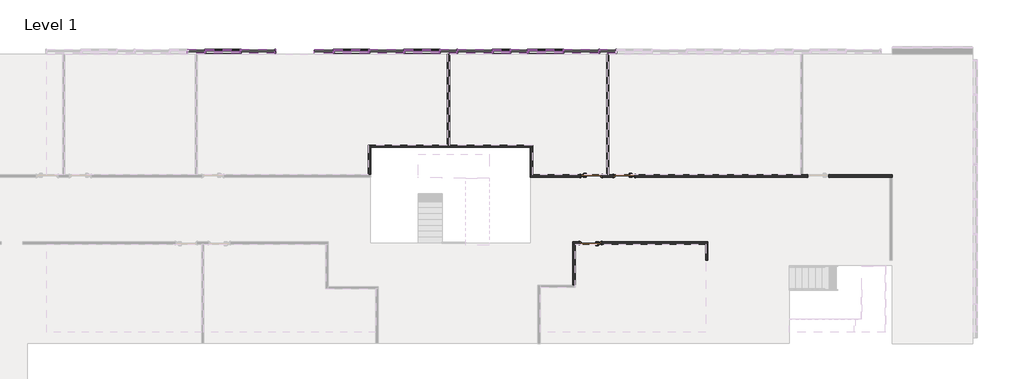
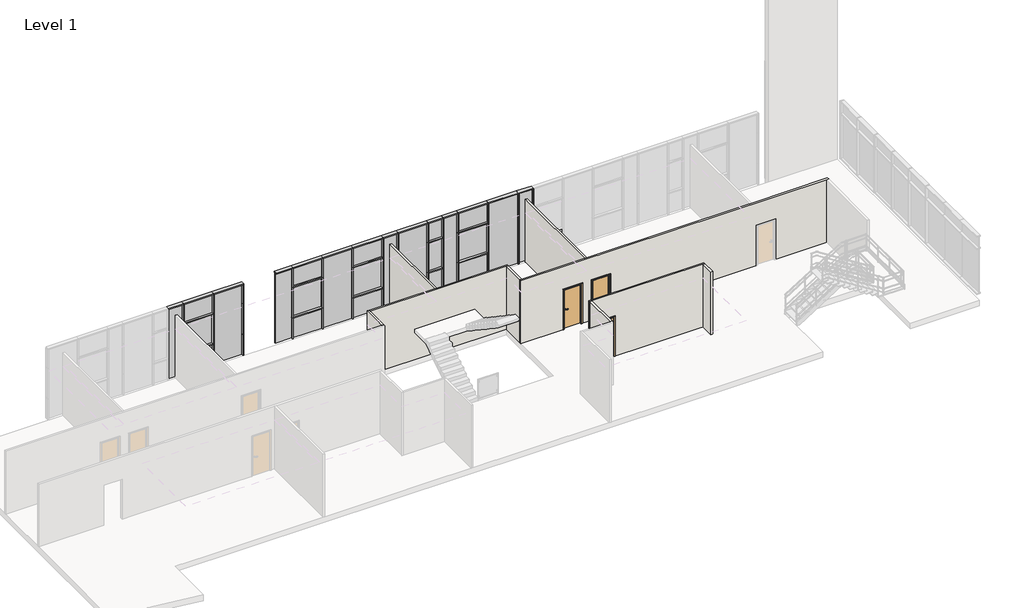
# One storey, part 5 of 10: 66 members, 25 plates, 9 walls, 3 doors.
"""IFC4 building model written with IfcOpenShell, lengths in millimetres."""

from ifc_helpers import new_model, si_unit, frame, origin, place, context, project, spatial, polyline, outline, extrude, faceted_brep, transform, mapped, element, save
from components import doors_intsgl_1_910x2110mm_004a08d5, doors_intsgl_1_910x2110mm_ba118736, rectangular_mullion_50x180mm_27940352, rectangular_mullion_50x180mm_f781141c, rectangular_mullion_50x180mm_fd91253e, rectangular_mullion_50x180mm_cfc9efda, rectangular_mullion_50x180mm_c30fec06, rectangular_mullion_50x180mm_55b63a96, rectangular_mullion_50x180mm_95299f7d, rectangular_mullion_50x180mm_7153291d, rectangular_mullion_50x180mm_44ee472d, rectangular_mullion_50x180mm_f19e9633, rectangular_mullion_50x180mm_b6846536, system_panel_black_panel_9c91f909, system_panel_black_panel_9e4711d2, system_panel_black_panel_f1dc39a6, system_panel_dark_grey_panel_d75652f0, system_panel_dark_grey_panel_1d6e0621, system_panel_dark_grey_panel_c47644bc, system_panel_glazed_dd63f223, system_panel_glazed_4915e1a0, system_panel_white_panel_6a64f577, system_panel_white_panel_a9ca731a, system_panel_white_panel_6c6c8c82, system_panel_white_panel_ff540c20

model = new_model("IFC4")

# Units and contexts
model_context = context("Model", 3, world=origin())
ifc_project = project(units=[si_unit("LENGTHUNIT", "METRE", prefix="MILLI")], contexts=[model_context])

# Site, building, storey
site = spatial("IfcSite", under=ifc_project)
building = spatial("IfcBuilding", under=site)
storey = spatial("IfcBuildingStorey", under=building, Name="Level 1", Elevation=3750.0)

# Doors
placement = place(None, origin())
doors_intsgl_1_910x2110mm_shape = doors_intsgl_1_910x2110mm_004a08d5(model_context)
element("IfcDoor", 1, ObjectType="Doors_IntSgl_1 : 910x2110mm", at=placement, inside=storey, context=model_context, shape_type="MappedRepresentation", body=[
    mapped(doors_intsgl_1_910x2110mm_shape, transform((26878.2942367, 3837.3025486, 3750.0), x_axis=(1.0, 0.0, 0.0), y_axis=(0.0, 1.0, 0.0), z_axis=(0.0, 0.0, 1.0))),
])
element("IfcDoor", 2, ObjectType="Doors_IntSgl_1 : 910x2110mm", at=placement, inside=storey, context=model_context, shape_type="MappedRepresentation", body=[
    mapped(doors_intsgl_1_910x2110mm_shape, transform((26848.2942367, 987.4946591, 3750.0), x_axis=(-1.0, 0.0, 0.0), y_axis=(0.0, -1.0, 0.0), z_axis=(0.0, 0.0, 1.0))),
])
doors_intsgl_1_910x2110mm_2_shape = doors_intsgl_1_910x2110mm_ba118736(model_context)
element("IfcDoor", 3, ObjectType="Doors_IntSgl_1 : 910x2110mm", at=placement, inside=storey, context=model_context, shape_type="MappedRepresentation", body=[
    mapped(doors_intsgl_1_910x2110mm_2_shape, transform((28283.2942367, 3837.3025486, 3750.0), x_axis=(-1.0, 0.0, 0.0), y_axis=(0.0, -1.0, 0.0), z_axis=(0.0, 0.0, 1.0))),
])

# Members
rectangular_mullion_50x180mm_shape = rectangular_mullion_50x180mm_27940352(model_context)
element("IfcMember", 4, ObjectType="Rectangular Mullion : 50x180mm", at=placement, inside=storey, context=model_context, shape_type="MappedRepresentation", body=[
    mapped(rectangular_mullion_50x180mm_shape, transform((27943.2942367, 9132.4946591, 3750.0), x_axis=(1.0, 0.0, 0.0), y_axis=(0.0, -1.0, 0.0), z_axis=(0.0, 0.0, -1.0))),
])
element("IfcMember", 5, ObjectType="Rectangular Mullion : 50x180mm", at=placement, inside=storey, context=model_context, shape_type="MappedRepresentation", body=[
    mapped(rectangular_mullion_50x180mm_shape, transform((25693.2942367, 9132.4946591, 3750.0), x_axis=(1.0, 0.0, 0.0), y_axis=(0.0, -1.0, 0.0), z_axis=(0.0, 0.0, -1.0))),
])
element("IfcMember", 6, ObjectType="Rectangular Mullion : 50x180mm", at=placement, inside=storey, context=model_context, shape_type="MappedRepresentation", body=[
    mapped(rectangular_mullion_50x180mm_shape, transform((24193.2942367, 9132.4946591, 3750.0), x_axis=(1.0, 0.0, 0.0), y_axis=(0.0, -1.0, 0.0), z_axis=(0.0, 0.0, -1.0))),
])
element("IfcMember", 7, ObjectType="Rectangular Mullion : 50x180mm", at=placement, inside=storey, context=model_context, shape_type="MappedRepresentation", body=[
    mapped(rectangular_mullion_50x180mm_shape, transform((23443.2942367, 9132.4946591, 3750.0), x_axis=(1.0, 0.0, 0.0), y_axis=(0.0, -1.0, 0.0), z_axis=(0.0, 0.0, -1.0))),
])
element("IfcMember", 8, ObjectType="Rectangular Mullion : 50x180mm", at=placement, inside=storey, context=model_context, shape_type="MappedRepresentation", body=[
    mapped(rectangular_mullion_50x180mm_shape, transform((22693.2942367, 9132.4946591, 3750.0), x_axis=(1.0, 0.0, 0.0), y_axis=(0.0, -1.0, 0.0), z_axis=(0.0, 0.0, -1.0))),
])
element("IfcMember", 9, ObjectType="Rectangular Mullion : 50x180mm", at=placement, inside=storey, context=model_context, shape_type="MappedRepresentation", body=[
    mapped(rectangular_mullion_50x180mm_shape, transform((20443.2942367, 9132.4946591, 3750.0), x_axis=(1.0, 0.0, 0.0), y_axis=(0.0, -1.0, 0.0), z_axis=(0.0, 0.0, -1.0))),
])
element("IfcMember", 10, ObjectType="Rectangular Mullion : 50x180mm", at=placement, inside=storey, context=model_context, shape_type="MappedRepresentation", body=[
    mapped(rectangular_mullion_50x180mm_shape, transform((18943.2942367, 9132.4946591, 3750.0), x_axis=(1.0, 0.0, 0.0), y_axis=(0.0, -1.0, 0.0), z_axis=(0.0, 0.0, -1.0))),
])
element("IfcMember", 11, ObjectType="Rectangular Mullion : 50x180mm", at=placement, inside=storey, context=model_context, shape_type="MappedRepresentation", body=[
    mapped(rectangular_mullion_50x180mm_shape, transform((15943.2942367, 9132.4946591, 3750.0), x_axis=(1.0, 0.0, 0.0), y_axis=(0.0, -1.0, 0.0), z_axis=(0.0, 0.0, -1.0))),
])
element("IfcMember", 12, ObjectType="Rectangular Mullion : 50x180mm", at=placement, inside=storey, context=model_context, shape_type="MappedRepresentation", body=[
    mapped(rectangular_mullion_50x180mm_shape, transform((17443.2942367, 9132.4946591, 3750.0), x_axis=(1.0, 0.0, 0.0), y_axis=(0.0, -1.0, 0.0), z_axis=(0.0, 0.0, -1.0))),
])
element("IfcMember", 13, ObjectType="Rectangular Mullion : 50x180mm", at=placement, inside=storey, context=model_context, shape_type="MappedRepresentation", body=[
    mapped(rectangular_mullion_50x180mm_shape, transform((11980.7942367, 9132.4946591, 3750.0), x_axis=(1.0, 0.0, 0.0), y_axis=(0.0, -1.0, 0.0), z_axis=(0.0, 0.0, -1.0))),
])
element("IfcMember", 14, ObjectType="Rectangular Mullion : 50x180mm", at=placement, inside=storey, context=model_context, shape_type="MappedRepresentation", body=[
    mapped(rectangular_mullion_50x180mm_shape, transform((10480.7942367, 9132.4946591, 3750.0), x_axis=(1.0, 0.0, 0.0), y_axis=(0.0, -1.0, 0.0), z_axis=(0.0, 0.0, -1.0))),
])
element("IfcMember", 15, ObjectType="Rectangular Mullion : 50x180mm", at=placement, inside=storey, context=model_context, shape_type="MappedRepresentation", body=[
    mapped(rectangular_mullion_50x180mm_shape, transform((21193.2942367, 9132.4946591, 3750.0), x_axis=(1.0, 0.0, 0.0), y_axis=(0.0, -1.0, 0.0), z_axis=(0.0, 0.0, -1.0))),
])
rectangular_mullion_50x180mm_2_shape = rectangular_mullion_50x180mm_f781141c(model_context)
element("IfcMember", 16, ObjectType="Rectangular Mullion : 50x180mm", at=placement, inside=storey, context=model_context, shape_type="MappedRepresentation", body=[
    mapped(rectangular_mullion_50x180mm_2_shape, transform((27943.2942367, 9132.4946591, 4850.0), x_axis=(1.0, 0.0, 0.0), y_axis=(0.0, -1.0, 0.0), z_axis=(0.0, 0.0, -1.0))),
])
element("IfcMember", 17, ObjectType="Rectangular Mullion : 50x180mm", at=placement, inside=storey, context=model_context, shape_type="MappedRepresentation", body=[
    mapped(rectangular_mullion_50x180mm_2_shape, transform((15943.2942367, 9132.4946591, 4850.0), x_axis=(1.0, 0.0, 0.0), y_axis=(0.0, -1.0, 0.0), z_axis=(0.0, 0.0, -1.0))),
])
element("IfcMember", 18, ObjectType="Rectangular Mullion : 50x180mm", at=placement, inside=storey, context=model_context, shape_type="MappedRepresentation", body=[
    mapped(rectangular_mullion_50x180mm_2_shape, transform((17443.2942367, 9132.4946591, 4850.0), x_axis=(1.0, 0.0, 0.0), y_axis=(0.0, -1.0, 0.0), z_axis=(0.0, 0.0, -1.0))),
])
element("IfcMember", 19, ObjectType="Rectangular Mullion : 50x180mm", at=placement, inside=storey, context=model_context, shape_type="MappedRepresentation", body=[
    mapped(rectangular_mullion_50x180mm_2_shape, transform((18943.2942367, 9132.4946591, 4850.0), x_axis=(1.0, 0.0, 0.0), y_axis=(0.0, -1.0, 0.0), z_axis=(0.0, 0.0, -1.0))),
])
element("IfcMember", 20, ObjectType="Rectangular Mullion : 50x180mm", at=placement, inside=storey, context=model_context, shape_type="MappedRepresentation", body=[
    mapped(rectangular_mullion_50x180mm_2_shape, transform((20443.2942367, 9132.4946591, 4850.0), x_axis=(1.0, 0.0, 0.0), y_axis=(0.0, -1.0, 0.0), z_axis=(0.0, 0.0, -1.0))),
])
element("IfcMember", 21, ObjectType="Rectangular Mullion : 50x180mm", at=placement, inside=storey, context=model_context, shape_type="MappedRepresentation", body=[
    mapped(rectangular_mullion_50x180mm_2_shape, transform((22693.2942367, 9132.4946591, 4850.0), x_axis=(1.0, 0.0, 0.0), y_axis=(0.0, -1.0, 0.0), z_axis=(0.0, 0.0, -1.0))),
])
element("IfcMember", 22, ObjectType="Rectangular Mullion : 50x180mm", at=placement, inside=storey, context=model_context, shape_type="MappedRepresentation", body=[
    mapped(rectangular_mullion_50x180mm_2_shape, transform((23443.2942367, 9132.4946591, 4850.0), x_axis=(1.0, 0.0, 0.0), y_axis=(0.0, -1.0, 0.0), z_axis=(0.0, 0.0, -1.0))),
])
element("IfcMember", 23, ObjectType="Rectangular Mullion : 50x180mm", at=placement, inside=storey, context=model_context, shape_type="MappedRepresentation", body=[
    mapped(rectangular_mullion_50x180mm_2_shape, transform((24193.2942367, 9132.4946591, 4850.0), x_axis=(1.0, 0.0, 0.0), y_axis=(0.0, -1.0, 0.0), z_axis=(0.0, 0.0, -1.0))),
])
element("IfcMember", 24, ObjectType="Rectangular Mullion : 50x180mm", at=placement, inside=storey, context=model_context, shape_type="MappedRepresentation", body=[
    mapped(rectangular_mullion_50x180mm_2_shape, transform((25693.2942367, 9132.4946591, 4850.0), x_axis=(1.0, 0.0, 0.0), y_axis=(0.0, -1.0, 0.0), z_axis=(0.0, 0.0, -1.0))),
])
element("IfcMember", 25, ObjectType="Rectangular Mullion : 50x180mm", at=placement, inside=storey, context=model_context, shape_type="MappedRepresentation", body=[
    mapped(rectangular_mullion_50x180mm_2_shape, transform((10480.7942367, 9132.4946591, 4850.0), x_axis=(1.0, 0.0, 0.0), y_axis=(0.0, -1.0, 0.0), z_axis=(0.0, 0.0, -1.0))),
])
element("IfcMember", 26, ObjectType="Rectangular Mullion : 50x180mm", at=placement, inside=storey, context=model_context, shape_type="MappedRepresentation", body=[
    mapped(rectangular_mullion_50x180mm_2_shape, transform((11980.7942367, 9132.4946591, 4850.0), x_axis=(1.0, 0.0, 0.0), y_axis=(0.0, -1.0, 0.0), z_axis=(0.0, 0.0, -1.0))),
])
element("IfcMember", 27, ObjectType="Rectangular Mullion : 50x180mm", at=placement, inside=storey, context=model_context, shape_type="MappedRepresentation", body=[
    mapped(rectangular_mullion_50x180mm_2_shape, transform((21193.2942367, 9132.4946591, 4850.0), x_axis=(1.0, 0.0, 0.0), y_axis=(0.0, -1.0, 0.0), z_axis=(0.0, 0.0, -1.0))),
])
rectangular_mullion_50x180mm_3_shape = rectangular_mullion_50x180mm_fd91253e(model_context)
element("IfcMember", 28, ObjectType="Rectangular Mullion : 50x180mm", at=placement, inside=storey, context=model_context, shape_type="MappedRepresentation", body=[
    mapped(rectangular_mullion_50x180mm_3_shape, transform((25668.2942367, 9132.4946591, 4850.0), x_axis=(0.0, 0.0, 1.0), y_axis=(0.0, -1.0, 0.0), z_axis=(1.0, 0.0, 0.0))),
])
element("IfcMember", 29, ObjectType="Rectangular Mullion : 50x180mm", at=placement, inside=storey, context=model_context, shape_type="MappedRepresentation", body=[
    mapped(rectangular_mullion_50x180mm_3_shape, transform((25668.2942367, 9132.4946591, 6450.0), x_axis=(0.0, 0.0, 1.0), y_axis=(0.0, -1.0, 0.0), z_axis=(1.0, 0.0, 0.0))),
])
element("IfcMember", 30, ObjectType="Rectangular Mullion : 50x180mm", at=placement, inside=storey, context=model_context, shape_type="MappedRepresentation", body=[
    mapped(rectangular_mullion_50x180mm_3_shape, transform((17418.2942367, 9132.4946591, 4850.0), x_axis=(0.0, 0.0, 1.0), y_axis=(0.0, -1.0, 0.0), z_axis=(1.0, 0.0, 0.0))),
])
element("IfcMember", 31, ObjectType="Rectangular Mullion : 50x180mm", at=placement, inside=storey, context=model_context, shape_type="MappedRepresentation", body=[
    mapped(rectangular_mullion_50x180mm_3_shape, transform((20418.2942367, 9132.4946591, 4850.0), x_axis=(0.0, 0.0, 1.0), y_axis=(0.0, -1.0, 0.0), z_axis=(1.0, 0.0, 0.0))),
])
element("IfcMember", 32, ObjectType="Rectangular Mullion : 50x180mm", at=placement, inside=storey, context=model_context, shape_type="MappedRepresentation", body=[
    mapped(rectangular_mullion_50x180mm_3_shape, transform((17418.2942367, 9132.4946591, 6450.0), x_axis=(0.0, 0.0, 1.0), y_axis=(0.0, -1.0, 0.0), z_axis=(1.0, 0.0, 0.0))),
])
element("IfcMember", 33, ObjectType="Rectangular Mullion : 50x180mm", at=placement, inside=storey, context=model_context, shape_type="MappedRepresentation", body=[
    mapped(rectangular_mullion_50x180mm_3_shape, transform((20418.2942367, 9132.4946591, 6450.0), x_axis=(0.0, 0.0, 1.0), y_axis=(0.0, -1.0, 0.0), z_axis=(1.0, 0.0, 0.0))),
])
element("IfcMember", 34, ObjectType="Rectangular Mullion : 50x180mm", at=placement, inside=storey, context=model_context, shape_type="MappedRepresentation", body=[
    mapped(rectangular_mullion_50x180mm_3_shape, transform((11955.7942367, 9132.4946591, 4850.0), x_axis=(0.0, 0.0, 1.0), y_axis=(0.0, -1.0, 0.0), z_axis=(1.0, 0.0, 0.0))),
])
element("IfcMember", 35, ObjectType="Rectangular Mullion : 50x180mm", at=placement, inside=storey, context=model_context, shape_type="MappedRepresentation", body=[
    mapped(rectangular_mullion_50x180mm_3_shape, transform((11955.7942367, 9132.4946591, 6450.0), x_axis=(0.0, 0.0, 1.0), y_axis=(0.0, -1.0, 0.0), z_axis=(1.0, 0.0, 0.0))),
])
rectangular_mullion_50x180mm_4_shape = rectangular_mullion_50x180mm_cfc9efda(model_context)
element("IfcMember", 36, ObjectType="Rectangular Mullion : 50x180mm", at=placement, inside=storey, context=model_context, shape_type="MappedRepresentation", body=[
    mapped(rectangular_mullion_50x180mm_4_shape, transform((23418.2942367, 9132.4946591, 6450.0), x_axis=(0.0, 0.0, 1.0), y_axis=(0.0, -1.0, 0.0), z_axis=(1.0, 0.0, 0.0))),
])
element("IfcMember", 37, ObjectType="Rectangular Mullion : 50x180mm", at=placement, inside=storey, context=model_context, shape_type="MappedRepresentation", body=[
    mapped(rectangular_mullion_50x180mm_4_shape, transform((23418.2942367, 9132.4946591, 4850.0), x_axis=(0.0, 0.0, 1.0), y_axis=(0.0, -1.0, 0.0), z_axis=(1.0, 0.0, 0.0))),
])
rectangular_mullion_50x180mm_5_shape = rectangular_mullion_50x180mm_c30fec06(model_context)
element("IfcMember", 38, ObjectType="Rectangular Mullion : 50x180mm", at=placement, inside=storey, context=model_context, shape_type="MappedRepresentation", body=[
    mapped(rectangular_mullion_50x180mm_5_shape, transform((17443.2942367, 9132.4946591, 7500.0), x_axis=(0.0, 0.0, 1.0), y_axis=(0.0, -1.0, 0.0), z_axis=(1.0, 0.0, 0.0))),
])
element("IfcMember", 39, ObjectType="Rectangular Mullion : 50x180mm", at=placement, inside=storey, context=model_context, shape_type="MappedRepresentation", body=[
    mapped(rectangular_mullion_50x180mm_5_shape, transform((18943.2942367, 9132.4946591, 7500.0), x_axis=(0.0, 0.0, 1.0), y_axis=(0.0, -1.0, 0.0), z_axis=(1.0, 0.0, 0.0))),
])
element("IfcMember", 40, ObjectType="Rectangular Mullion : 50x180mm", at=placement, inside=storey, context=model_context, shape_type="MappedRepresentation", body=[
    mapped(rectangular_mullion_50x180mm_5_shape, transform((20443.2942367, 9132.4946591, 7500.0), x_axis=(0.0, 0.0, 1.0), y_axis=(0.0, -1.0, 0.0), z_axis=(1.0, 0.0, 0.0))),
])
element("IfcMember", 41, ObjectType="Rectangular Mullion : 50x180mm", at=placement, inside=storey, context=model_context, shape_type="MappedRepresentation", body=[
    mapped(rectangular_mullion_50x180mm_5_shape, transform((22693.2942367, 9132.4946591, 7500.0), x_axis=(0.0, 0.0, 1.0), y_axis=(0.0, -1.0, 0.0), z_axis=(1.0, 0.0, 0.0))),
])
element("IfcMember", 42, ObjectType="Rectangular Mullion : 50x180mm", at=placement, inside=storey, context=model_context, shape_type="MappedRepresentation", body=[
    mapped(rectangular_mullion_50x180mm_5_shape, transform((25693.2942367, 9132.4946591, 7500.0), x_axis=(0.0, 0.0, 1.0), y_axis=(0.0, -1.0, 0.0), z_axis=(1.0, 0.0, 0.0))),
])
element("IfcMember", 43, ObjectType="Rectangular Mullion : 50x180mm", at=placement, inside=storey, context=model_context, shape_type="MappedRepresentation", body=[
    mapped(rectangular_mullion_50x180mm_5_shape, transform((11980.7942367, 9132.4946591, 7500.0), x_axis=(0.0, 0.0, 1.0), y_axis=(0.0, -1.0, 0.0), z_axis=(1.0, 0.0, 0.0))),
])
rectangular_mullion_50x180mm_6_shape = rectangular_mullion_50x180mm_55b63a96(model_context)
element("IfcMember", 44, ObjectType="Rectangular Mullion : 50x180mm", at=placement, inside=storey, context=model_context, shape_type="MappedRepresentation", body=[
    mapped(rectangular_mullion_50x180mm_6_shape, transform((27943.2942367, 9132.4946591, 7500.0), x_axis=(0.0, 0.0, 1.0), y_axis=(0.0, -1.0, 0.0), z_axis=(1.0, 0.0, 0.0))),
])
element("IfcMember", 45, ObjectType="Rectangular Mullion : 50x180mm", at=placement, inside=storey, context=model_context, shape_type="MappedRepresentation", body=[
    mapped(rectangular_mullion_50x180mm_5_shape, transform((27193.2942367, 9132.4946591, 7500.0), x_axis=(0.0, 0.0, 1.0), y_axis=(0.0, -1.0, 0.0), z_axis=(1.0, 0.0, 0.0))),
])
element("IfcMember", 46, ObjectType="Rectangular Mullion : 50x180mm", at=placement, inside=storey, context=model_context, shape_type="MappedRepresentation", body=[
    mapped(rectangular_mullion_50x180mm_6_shape, transform((21193.2942367, 9132.4946591, 7500.0), x_axis=(0.0, 0.0, 1.0), y_axis=(0.0, -1.0, 0.0), z_axis=(1.0, 0.0, 0.0))),
])
element("IfcMember", 47, ObjectType="Rectangular Mullion : 50x180mm", at=placement, inside=storey, context=model_context, shape_type="MappedRepresentation", body=[
    mapped(rectangular_mullion_50x180mm_6_shape, transform((23443.2942367, 9132.4946591, 7500.0), x_axis=(0.0, 0.0, 1.0), y_axis=(0.0, -1.0, 0.0), z_axis=(1.0, 0.0, 0.0))),
])
element("IfcMember", 48, ObjectType="Rectangular Mullion : 50x180mm", at=placement, inside=storey, context=model_context, shape_type="MappedRepresentation", body=[
    mapped(rectangular_mullion_50x180mm_6_shape, transform((24193.2942367, 9132.4946591, 7500.0), x_axis=(0.0, 0.0, 1.0), y_axis=(0.0, -1.0, 0.0), z_axis=(1.0, 0.0, 0.0))),
])
element("IfcMember", 49, ObjectType="Rectangular Mullion : 50x180mm", at=placement, inside=storey, context=model_context, shape_type="MappedRepresentation", body=[
    mapped(rectangular_mullion_50x180mm_6_shape, transform((10480.7942367, 9132.4946591, 7500.0), x_axis=(0.0, 0.0, 1.0), y_axis=(0.0, -1.0, 0.0), z_axis=(1.0, 0.0, 0.0))),
])
element("IfcMember", 50, ObjectType="Rectangular Mullion : 50x180mm", at=placement, inside=storey, context=model_context, shape_type="MappedRepresentation", body=[
    mapped(rectangular_mullion_50x180mm_5_shape, transform((13480.7942367, 9132.4946591, 7500.0), x_axis=(0.0, 0.0, 1.0), y_axis=(0.0, -1.0, 0.0), z_axis=(1.0, 0.0, 0.0))),
])
rectangular_mullion_50x180mm_7_shape = rectangular_mullion_50x180mm_95299f7d(model_context)
element("IfcMember", 51, ObjectType="Rectangular Mullion : 50x180mm", at=placement, inside=storey, context=model_context, shape_type="MappedRepresentation", body=[
    mapped(rectangular_mullion_50x180mm_7_shape, transform((13480.7942367, 9132.4946591, 4850.0), x_axis=(1.0, 0.0, 0.0), y_axis=(0.0, -1.0, 0.0), z_axis=(0.0, 0.0, -1.0))),
])
rectangular_mullion_50x180mm_8_shape = rectangular_mullion_50x180mm_7153291d(model_context)
element("IfcMember", 52, ObjectType="Rectangular Mullion : 50x180mm", at=placement, inside=storey, context=model_context, shape_type="MappedRepresentation", body=[
    mapped(rectangular_mullion_50x180mm_8_shape, transform((13480.7942367, 9132.4946591, 3750.0), x_axis=(1.0, 0.0, 0.0), y_axis=(0.0, -1.0, 0.0), z_axis=(0.0, 0.0, -1.0))),
])
element("IfcMember", 53, ObjectType="Rectangular Mullion : 50x180mm", at=placement, inside=storey, context=model_context, shape_type="MappedRepresentation", body=[
    mapped(rectangular_mullion_50x180mm_8_shape, transform((27193.2942367, 9132.4946591, 4850.0), x_axis=(-1.0, 0.0, 0.0), y_axis=(0.0, -1.0, 0.0), z_axis=(0.0, 0.0, 1.0))),
])
element("IfcMember", 54, ObjectType="Rectangular Mullion : 50x180mm", at=placement, inside=storey, context=model_context, shape_type="MappedRepresentation", body=[
    mapped(rectangular_mullion_50x180mm_7_shape, transform((27193.2942367, 9132.4946591, 6450.0), x_axis=(-1.0, 0.0, 0.0), y_axis=(0.0, -1.0, 0.0), z_axis=(0.0, 0.0, 1.0))),
])
rectangular_mullion_50x180mm_9_shape = rectangular_mullion_50x180mm_44ee472d(model_context)
element("IfcMember", 55, ObjectType="Rectangular Mullion : 50x180mm", at=placement, inside=storey, context=model_context, shape_type="MappedRepresentation", body=[
    mapped(rectangular_mullion_50x180mm_9_shape, transform((15943.2942367, 9132.4946591, 7500.0), x_axis=(0.0, 0.0, 1.0), y_axis=(0.0, -1.0, 0.0), z_axis=(1.0, 0.0, 0.0))),
])
rectangular_mullion_50x180mm_10_shape = rectangular_mullion_50x180mm_f19e9633(model_context)
element("IfcMember", 56, ObjectType="Rectangular Mullion : 50x180mm", at=placement, inside=storey, context=model_context, shape_type="MappedRepresentation", body=[
    mapped(rectangular_mullion_50x180mm_10_shape, transform((27943.2942367, 9132.4946591, 6450.0), x_axis=(1.0, 0.0, 0.0), y_axis=(0.0, -1.0, 0.0), z_axis=(0.0, 0.0, -1.0))),
])
element("IfcMember", 57, ObjectType="Rectangular Mullion : 50x180mm", at=placement, inside=storey, context=model_context, shape_type="MappedRepresentation", body=[
    mapped(rectangular_mullion_50x180mm_10_shape, transform((22693.2942367, 9132.4946591, 6450.0), x_axis=(1.0, 0.0, 0.0), y_axis=(0.0, -1.0, 0.0), z_axis=(0.0, 0.0, -1.0))),
])
element("IfcMember", 58, ObjectType="Rectangular Mullion : 50x180mm", at=placement, inside=storey, context=model_context, shape_type="MappedRepresentation", body=[
    mapped(rectangular_mullion_50x180mm_10_shape, transform((23443.2942367, 9132.4946591, 6450.0), x_axis=(1.0, 0.0, 0.0), y_axis=(0.0, -1.0, 0.0), z_axis=(0.0, 0.0, -1.0))),
])
element("IfcMember", 59, ObjectType="Rectangular Mullion : 50x180mm", at=placement, inside=storey, context=model_context, shape_type="MappedRepresentation", body=[
    mapped(rectangular_mullion_50x180mm_10_shape, transform((24193.2942367, 9132.4946591, 6450.0), x_axis=(1.0, 0.0, 0.0), y_axis=(0.0, -1.0, 0.0), z_axis=(0.0, 0.0, -1.0))),
])
element("IfcMember", 60, ObjectType="Rectangular Mullion : 50x180mm", at=placement, inside=storey, context=model_context, shape_type="MappedRepresentation", body=[
    mapped(rectangular_mullion_50x180mm_10_shape, transform((25693.2942367, 9132.4946591, 6450.0), x_axis=(1.0, 0.0, 0.0), y_axis=(0.0, -1.0, 0.0), z_axis=(0.0, 0.0, -1.0))),
])
element("IfcMember", 61, ObjectType="Rectangular Mullion : 50x180mm", at=placement, inside=storey, context=model_context, shape_type="MappedRepresentation", body=[
    mapped(rectangular_mullion_50x180mm_10_shape, transform((20443.2942367, 9132.4946591, 6450.0), x_axis=(1.0, 0.0, 0.0), y_axis=(0.0, -1.0, 0.0), z_axis=(0.0, 0.0, -1.0))),
])
element("IfcMember", 62, ObjectType="Rectangular Mullion : 50x180mm", at=placement, inside=storey, context=model_context, shape_type="MappedRepresentation", body=[
    mapped(rectangular_mullion_50x180mm_10_shape, transform((18943.2942367, 9132.4946591, 6450.0), x_axis=(1.0, 0.0, 0.0), y_axis=(0.0, -1.0, 0.0), z_axis=(0.0, 0.0, -1.0))),
])
element("IfcMember", 63, ObjectType="Rectangular Mullion : 50x180mm", at=placement, inside=storey, context=model_context, shape_type="MappedRepresentation", body=[
    mapped(rectangular_mullion_50x180mm_10_shape, transform((15943.2942367, 9132.4946591, 6450.0), x_axis=(1.0, 0.0, 0.0), y_axis=(0.0, -1.0, 0.0), z_axis=(0.0, 0.0, -1.0))),
])
element("IfcMember", 64, ObjectType="Rectangular Mullion : 50x180mm", at=placement, inside=storey, context=model_context, shape_type="MappedRepresentation", body=[
    mapped(rectangular_mullion_50x180mm_10_shape, transform((17443.2942367, 9132.4946591, 6450.0), x_axis=(1.0, 0.0, 0.0), y_axis=(0.0, -1.0, 0.0), z_axis=(0.0, 0.0, -1.0))),
])
element("IfcMember", 65, ObjectType="Rectangular Mullion : 50x180mm", at=placement, inside=storey, context=model_context, shape_type="MappedRepresentation", body=[
    mapped(rectangular_mullion_50x180mm_10_shape, transform((10480.7942367, 9132.4946591, 6450.0), x_axis=(1.0, 0.0, 0.0), y_axis=(0.0, -1.0, 0.0), z_axis=(0.0, 0.0, -1.0))),
])
element("IfcMember", 66, ObjectType="Rectangular Mullion : 50x180mm", at=placement, inside=storey, context=model_context, shape_type="MappedRepresentation", body=[
    mapped(rectangular_mullion_50x180mm_10_shape, transform((11980.7942367, 9132.4946591, 6450.0), x_axis=(1.0, 0.0, 0.0), y_axis=(0.0, -1.0, 0.0), z_axis=(0.0, 0.0, -1.0))),
])
element("IfcMember", 67, ObjectType="Rectangular Mullion : 50x180mm", at=placement, inside=storey, context=model_context, shape_type="MappedRepresentation", body=[
    mapped(rectangular_mullion_50x180mm_10_shape, transform((21193.2942367, 9132.4946591, 6450.0), x_axis=(1.0, 0.0, 0.0), y_axis=(0.0, -1.0, 0.0), z_axis=(0.0, 0.0, -1.0))),
])
rectangular_mullion_50x180mm_11_shape = rectangular_mullion_50x180mm_b6846536(model_context)
element("IfcMember", 68, ObjectType="Rectangular Mullion : 50x180mm", at=placement, inside=storey, context=model_context, shape_type="MappedRepresentation", body=[
    mapped(rectangular_mullion_50x180mm_11_shape, transform((13480.7942367, 9132.4946591, 6450.0), x_axis=(1.0, 0.0, 0.0), y_axis=(0.0, -1.0, 0.0), z_axis=(0.0, 0.0, -1.0))),
])
element("IfcMember", 69, ObjectType="Rectangular Mullion : 50x180mm", at=placement, inside=storey, context=model_context, shape_type="MappedRepresentation", body=[
    mapped(rectangular_mullion_50x180mm_11_shape, transform((27193.2942367, 9132.4946591, 7450.0), x_axis=(-1.0, 0.0, 0.0), y_axis=(0.0, -1.0, 0.0), z_axis=(0.0, 0.0, 1.0))),
])

# Plates
system_panel_black_panel_shape = system_panel_black_panel_9c91f909(model_context)
element("IfcPlate", 70, ObjectType="System Panel : Black-Panel", at=placement, inside=storey, context=model_context, shape_type="MappedRepresentation", body=[
    mapped(system_panel_black_panel_shape, transform((27580.7942367, 9132.4946591, 3750.0), x_axis=(1.0, 0.0, 0.0), y_axis=(0.0, 1.0, 0.0), z_axis=(0.0, 0.0, 1.0))),
])
system_panel_black_panel_2_shape = system_panel_black_panel_9e4711d2(model_context)
element("IfcPlate", 71, ObjectType="System Panel : Black-Panel", at=placement, inside=storey, context=model_context, shape_type="MappedRepresentation", body=[
    mapped(system_panel_black_panel_2_shape, transform((23818.2942367, 9132.4946591, 3750.0), x_axis=(1.0, 0.0, 0.0), y_axis=(0.0, 1.0, 0.0), z_axis=(0.0, 0.0, 1.0))),
])
element("IfcPlate", 72, ObjectType="System Panel : Black-Panel", at=placement, inside=storey, context=model_context, shape_type="MappedRepresentation", body=[
    mapped(system_panel_black_panel_2_shape, transform((20818.2942367, 9132.4946591, 3750.0), x_axis=(1.0, 0.0, 0.0), y_axis=(0.0, 1.0, 0.0), z_axis=(0.0, 0.0, 1.0))),
])
element("IfcPlate", 73, ObjectType="System Panel : Black-Panel", at=placement, inside=storey, context=model_context, shape_type="MappedRepresentation", body=[
    mapped(system_panel_black_panel_2_shape, transform((10105.7942367, 9132.4946591, 3750.0), x_axis=(1.0, 0.0, 0.0), y_axis=(0.0, 1.0, 0.0), z_axis=(0.0, 0.0, 1.0))),
])
system_panel_black_panel_3_shape = system_panel_black_panel_f1dc39a6(model_context)
element("IfcPlate", 74, ObjectType="System Panel : Black-Panel", at=placement, inside=storey, context=model_context, shape_type="MappedRepresentation", body=[
    mapped(system_panel_black_panel_3_shape, transform((15512.0442367, 9132.4946591, 3750.0), x_axis=(1.0, 0.0, 0.0), y_axis=(0.0, 1.0, 0.0), z_axis=(0.0, 0.0, 1.0))),
])
system_panel_dark_grey_panel_shape = system_panel_dark_grey_panel_d75652f0(model_context)
element("IfcPlate", 75, ObjectType="System Panel : Dark Grey-Panel", at=placement, inside=storey, context=model_context, shape_type="MappedRepresentation", body=[
    mapped(system_panel_dark_grey_panel_shape, transform((12718.2942367, 9132.4946591, 3750.0), x_axis=(1.0, 0.0, 0.0), y_axis=(0.0, 1.0, 0.0), z_axis=(0.0, 0.0, 1.0))),
])
system_panel_dark_grey_panel_2_shape = system_panel_dark_grey_panel_1d6e0621(model_context)
element("IfcPlate", 76, ObjectType="System Panel : Dark Grey-Panel", at=placement, inside=storey, context=model_context, shape_type="MappedRepresentation", body=[
    mapped(system_panel_dark_grey_panel_2_shape, transform((21943.2942367, 9132.4946591, 3750.0), x_axis=(1.0, 0.0, 0.0), y_axis=(0.0, 1.0, 0.0), z_axis=(0.0, 0.0, 1.0))),
])
element("IfcPlate", 77, ObjectType="System Panel : Dark Grey-Panel", at=placement, inside=storey, context=model_context, shape_type="MappedRepresentation", body=[
    mapped(system_panel_dark_grey_panel_2_shape, transform((18193.2942367, 9132.4946591, 3750.0), x_axis=(1.0, 0.0, 0.0), y_axis=(0.0, 1.0, 0.0), z_axis=(0.0, 0.0, 1.0))),
])
system_panel_dark_grey_panel_3_shape = system_panel_dark_grey_panel_c47644bc(model_context)
element("IfcPlate", 78, ObjectType="System Panel : Dark Grey-Panel", at=placement, inside=storey, context=model_context, shape_type="MappedRepresentation", body=[
    mapped(system_panel_dark_grey_panel_3_shape, transform((26455.7942367, 9132.4946591, 3750.0), x_axis=(1.0, 0.0, 0.0), y_axis=(0.0, 1.0, 0.0), z_axis=(0.0, 0.0, 1.0))),
])
system_panel_glazed_shape = system_panel_glazed_dd63f223(model_context)
element("IfcPlate", 79, ObjectType="System Panel : Glazed", at=placement, inside=storey, context=model_context, shape_type="MappedRepresentation", body=[
    mapped(system_panel_glazed_shape, transform((23068.2942367, 9132.4946591, 4875.0), x_axis=(1.0, 0.0, 0.0), y_axis=(0.0, 1.0, 0.0), z_axis=(0.0, 0.0, 1.0))),
])
system_panel_glazed_2_shape = system_panel_glazed_4915e1a0(model_context)
element("IfcPlate", 80, ObjectType="System Panel : Glazed", at=placement, inside=storey, context=model_context, shape_type="MappedRepresentation", body=[
    mapped(system_panel_glazed_2_shape, transform((24943.2942367, 9132.4946591, 4875.0), x_axis=(1.0, 0.0, 0.0), y_axis=(0.0, 1.0, 0.0), z_axis=(0.0, 0.0, 1.0))),
])
element("IfcPlate", 81, ObjectType="System Panel : Glazed", at=placement, inside=storey, context=model_context, shape_type="MappedRepresentation", body=[
    mapped(system_panel_glazed_2_shape, transform((19693.2942367, 9132.4946591, 4875.0), x_axis=(1.0, 0.0, 0.0), y_axis=(0.0, 1.0, 0.0), z_axis=(0.0, 0.0, 1.0))),
])
element("IfcPlate", 82, ObjectType="System Panel : Glazed", at=placement, inside=storey, context=model_context, shape_type="MappedRepresentation", body=[
    mapped(system_panel_glazed_2_shape, transform((16693.2942367, 9132.4946591, 4875.0), x_axis=(1.0, 0.0, 0.0), y_axis=(0.0, 1.0, 0.0), z_axis=(0.0, 0.0, 1.0))),
])
element("IfcPlate", 83, ObjectType="System Panel : Glazed", at=placement, inside=storey, context=model_context, shape_type="MappedRepresentation", body=[
    mapped(system_panel_glazed_2_shape, transform((11230.7942367, 9132.4946591, 4875.0), x_axis=(1.0, 0.0, 0.0), y_axis=(0.0, 1.0, 0.0), z_axis=(0.0, 0.0, 1.0))),
])
system_panel_white_panel_shape = system_panel_white_panel_6a64f577(model_context)
element("IfcPlate", 84, ObjectType="System Panel : White-Panel", at=placement, inside=storey, context=model_context, shape_type="MappedRepresentation", body=[
    mapped(system_panel_white_panel_shape, transform((28693.2942367, 9132.4946591, 3750.0), x_axis=(1.0, 0.0, 0.0), y_axis=(0.0, 1.0, 0.0), z_axis=(0.0, 0.0, 1.0))),
])
element("IfcPlate", 85, ObjectType="System Panel : White-Panel", at=placement, inside=storey, context=model_context, shape_type="MappedRepresentation", body=[
    mapped(system_panel_white_panel_shape, transform((24943.2942367, 9132.4946591, 3750.0), x_axis=(1.0, 0.0, 0.0), y_axis=(0.0, 1.0, 0.0), z_axis=(0.0, 0.0, 1.0))),
])
element("IfcPlate", 86, ObjectType="System Panel : White-Panel", at=placement, inside=storey, context=model_context, shape_type="MappedRepresentation", body=[
    mapped(system_panel_white_panel_shape, transform((19693.2942367, 9132.4946591, 3750.0), x_axis=(1.0, 0.0, 0.0), y_axis=(0.0, 1.0, 0.0), z_axis=(0.0, 0.0, 1.0))),
])
element("IfcPlate", 87, ObjectType="System Panel : White-Panel", at=placement, inside=storey, context=model_context, shape_type="MappedRepresentation", body=[
    mapped(system_panel_white_panel_shape, transform((16693.2942367, 9132.4946591, 3750.0), x_axis=(1.0, 0.0, 0.0), y_axis=(0.0, 1.0, 0.0), z_axis=(0.0, 0.0, 1.0))),
])
element("IfcPlate", 88, ObjectType="System Panel : White-Panel", at=placement, inside=storey, context=model_context, shape_type="MappedRepresentation", body=[
    mapped(system_panel_white_panel_shape, transform((11230.7942367, 9132.4946591, 3750.0), x_axis=(1.0, 0.0, 0.0), y_axis=(0.0, 1.0, 0.0), z_axis=(0.0, 0.0, 1.0))),
])
system_panel_white_panel_2_shape = system_panel_white_panel_a9ca731a(model_context)
element("IfcPlate", 89, ObjectType="System Panel : White-Panel", at=placement, inside=storey, context=model_context, shape_type="MappedRepresentation", body=[
    mapped(system_panel_white_panel_2_shape, transform((23068.2942367, 9132.4946591, 3750.0), x_axis=(1.0, 0.0, 0.0), y_axis=(0.0, 1.0, 0.0), z_axis=(0.0, 0.0, 1.0))),
])
system_panel_white_panel_3_shape = system_panel_white_panel_6c6c8c82(model_context)
element("IfcPlate", 90, ObjectType="System Panel : White-Panel", at=placement, inside=storey, context=model_context, shape_type="MappedRepresentation", body=[
    mapped(system_panel_white_panel_3_shape, transform((23068.2942367, 9132.4946591, 6475.0), x_axis=(1.0, 0.0, 0.0), y_axis=(0.0, 1.0, 0.0), z_axis=(0.0, 0.0, 1.0))),
])
system_panel_white_panel_4_shape = system_panel_white_panel_ff540c20(model_context)
element("IfcPlate", 91, ObjectType="System Panel : White-Panel", at=placement, inside=storey, context=model_context, shape_type="MappedRepresentation", body=[
    mapped(system_panel_white_panel_4_shape, transform((24943.2942367, 9132.4946591, 6475.0), x_axis=(1.0, 0.0, 0.0), y_axis=(0.0, 1.0, 0.0), z_axis=(0.0, 0.0, 1.0))),
])
element("IfcPlate", 92, ObjectType="System Panel : White-Panel", at=placement, inside=storey, context=model_context, shape_type="MappedRepresentation", body=[
    mapped(system_panel_white_panel_4_shape, transform((19693.2942367, 9132.4946591, 6475.0), x_axis=(1.0, 0.0, 0.0), y_axis=(0.0, 1.0, 0.0), z_axis=(0.0, 0.0, 1.0))),
])
element("IfcPlate", 93, ObjectType="System Panel : White-Panel", at=placement, inside=storey, context=model_context, shape_type="MappedRepresentation", body=[
    mapped(system_panel_white_panel_4_shape, transform((16693.2942367, 9132.4946591, 6475.0), x_axis=(1.0, 0.0, 0.0), y_axis=(0.0, 1.0, 0.0), z_axis=(0.0, 0.0, 1.0))),
])
element("IfcPlate", 94, ObjectType="System Panel : White-Panel", at=placement, inside=storey, context=model_context, shape_type="MappedRepresentation", body=[
    mapped(system_panel_white_panel_4_shape, transform((11230.7942367, 9132.4946591, 6475.0), x_axis=(1.0, 0.0, 0.0), y_axis=(0.0, 1.0, 0.0), z_axis=(0.0, 0.0, 1.0))),
])

# Walls
element("IfcWall", 95, ObjectType="Wall-Partn_12P-70MStd-12P", at=placement, inside=storey, context=model_context, shape_type="Brep", body=[
    faceted_brep([(24298.2942367, 3884.8025486, 7065.0), (24393.2942367, 3884.8025486, 7065.0), (27533.2942367, 3884.8025486, 7065.0), (27628.2942367, 3884.8025486, 7065.0), (35770.7942367, 3884.8025486, 7065.0), (35865.7942367, 3884.8025486, 7065.0), (39655.7942367, 3884.8025486, 7065.0), (39655.7942367, 3884.8025486, 3750.0), (36975.7942367, 3884.8025486, 3750.0), (36975.7942367, 3884.8025486, 5860.0), (36065.7942367, 3884.8025486, 5860.0), (36065.7942367, 3884.8025486, 3750.0), (35865.7942367, 3884.8025486, 3750.0), (35770.7942367, 3884.8025486, 3750.0), (28738.2942367, 3884.8025486, 3750.0), (28738.2942367, 3884.8025486, 5860.0), (27828.2942367, 3884.8025486, 5860.0), (27828.2942367, 3884.8025486, 3750.0), (27628.2942367, 3884.8025486, 3750.0), (27533.2942367, 3884.8025486, 3750.0), (27333.2942367, 3884.8025486, 3750.0), (27333.2942367, 3884.8025486, 5860.0), (26423.2942367, 3884.8025486, 5860.0), (26423.2942367, 3884.8025486, 3750.0), (24393.2942367, 3884.8025486, 3750.0), (24298.2942367, 3884.8025486, 3750.0), (39655.7942367, 3789.8025486, 7065.0), (39560.7942367, 3789.8025486, 7065.0), (24298.2942367, 3789.8025486, 7065.0), (24298.2942367, 3789.8025486, 3750.0), (26423.2942367, 3789.8025486, 3750.0), (26423.2942367, 3789.8025486, 5860.0), (27333.2942367, 3789.8025486, 5860.0), (27333.2942367, 3789.8025486, 3750.0), (27828.2942367, 3789.8025486, 3750.0), (27828.2942367, 3789.8025486, 5860.0), (28738.2942367, 3789.8025486, 5860.0), (28738.2942367, 3789.8025486, 3750.0), (36065.7942367, 3789.8025486, 3750.0), (36065.7942367, 3789.8025486, 5860.0), (36975.7942367, 3789.8025486, 5860.0), (36975.7942367, 3789.8025486, 3750.0), (39560.7942367, 3789.8025486, 3750.0), (39655.7942367, 3789.8025486, 3750.0)], [[[0, 1, 2, 3, 4, 5, 6, 7, 8, 9, 10, 11, 12, 13, 14, 15, 16, 17, 18, 19, 20, 21, 22, 23, 24, 25]], [[26, 27, 28, 29, 30, 31, 32, 33, 34, 35, 36, 37, 38, 39, 40, 41, 42, 43]], [[29, 25, 24, 23, 30]], [[33, 20, 19, 18, 17, 34]], [[37, 14, 13, 12, 11, 38]], [[7, 43, 42, 41, 8]], [[6, 5, 4, 3, 2, 1, 0, 28, 27, 26]], [[0, 25, 29, 28]], [[32, 21, 20, 33]], [[21, 32, 31, 22]], [[22, 31, 30, 23]], [[16, 35, 34, 17]], [[35, 16, 15, 36]], [[36, 15, 14, 37]], [[10, 39, 38, 11]], [[39, 10, 9, 40]], [[40, 9, 8, 41]], [[7, 6, 26, 43]]]),
])
element("IfcWall", 96, ObjectType="Wall-Partn_12P-70MStd-12P", at=placement, inside=storey, context=model_context, shape_type="SweptSolid", body=[
    extrude(outline(polyline([(20865.7942367, 9007.4946591), (20865.7942367, 5143.5025486), (20770.7942367, 5143.5025486), (20770.7942367, 9007.4946591), (20865.7942367, 9007.4946591)])), frame((0.0, 0.0, 3750.0), z_axis=(0.0, 0.0, 1.0), x_axis=(1.0, 0.0, 0.0)), (0.0, 0.0, 1.0), 3315.0),
])
element("IfcWall", 97, ObjectType="Wall-Partn_12P-70MStd-12P", at=placement, inside=storey, context=model_context, shape_type="SweptSolid", body=[
    extrude(outline(polyline([(27628.2942367, 9007.4946591), (27628.2942367, 3884.8025486), (27533.2942367, 3884.8025486), (27533.2942367, 9007.4946591), (27628.2942367, 9007.4946591)])), frame((0.0, 0.0, 3750.0), z_axis=(0.0, 0.0, 1.0), x_axis=(1.0, 0.0, 0.0)), (0.0, 0.0, 1.0), 3315.0),
])
element("IfcWall", 98, ObjectType="Wall-Partn_12P-70MStd-12P", at=placement, inside=storey, context=model_context, shape_type="Brep", body=[
    faceted_brep([(17505.7942367, 3884.8025486, 3750.0), (17505.7942367, 5048.5025486, 3750.0), (17505.7942367, 5143.5025486, 3750.0), (17505.7942367, 5143.5025486, 7065.0), (17505.7942367, 5048.5025486, 7065.0), (17505.7942367, 3884.8025486, 7065.0), (17410.7942367, 3884.8025486, 3750.0), (17410.7942367, 3884.8025486, 7065.0), (17410.7942367, 5143.5025486, 7065.0), (17410.7942367, 5143.5025486, 3750.0)], [[[0, 1, 2, 3, 4, 5]], [[6, 7, 8, 9]], [[2, 1, 0, 6, 9]], [[5, 4, 3, 8, 7]], [[0, 5, 7, 6]], [[3, 2, 9, 8]]]),
])
element("IfcWall", 99, ObjectType="Wall-Partn_12P-70MStd-12P", at=placement, inside=storey, context=model_context, shape_type="Brep", body=[
    faceted_brep([(17505.7942367, 5048.5025486, 3750.0), (24298.2942367, 5048.5025486, 3750.0), (24393.2942367, 5048.5025486, 3750.0), (24393.2942367, 5048.5025486, 7065.0), (24298.2942367, 5048.5025486, 7065.0), (17505.7942367, 5048.5025486, 7065.0), (17505.7942367, 5143.5025486, 3750.0), (17505.7942367, 5143.5025486, 7065.0), (20770.7942367, 5143.5025486, 7065.0), (20865.7942367, 5143.5025486, 7065.0), (24393.2942367, 5143.5025486, 7065.0), (24393.2942367, 5143.5025486, 3750.0), (20865.7942367, 5143.5025486, 3750.0), (20770.7942367, 5143.5025486, 3750.0)], [[[0, 1, 2, 3, 4, 5]], [[6, 7, 8, 9, 10, 11, 12, 13]], [[2, 1, 0, 6, 13, 12, 11]], [[5, 4, 3, 10, 9, 8, 7]], [[0, 5, 7, 6]], [[3, 2, 11, 10]]]),
])
element("IfcWall", 100, ObjectType="Wall-Partn_12P-70MStd-12P", at=placement, inside=storey, context=model_context, shape_type="SweptSolid", body=[
    extrude(outline(polyline([(24298.2942367, 3884.8025486), (24298.2942367, 5048.5025486), (24393.2942367, 5048.5025486), (24393.2942367, 3884.8025486), (24298.2942367, 3884.8025486)])), frame((0.0, 0.0, 3750.0), z_axis=(0.0, 0.0, 1.0), x_axis=(1.0, 0.0, 0.0)), (0.0, 0.0, 1.0), 3315.0),
])
element("IfcWall", 101, ObjectType="Wall-Partn_12P-70MStd-12P", at=placement, inside=storey, context=model_context, shape_type="Brep", body=[
    faceted_brep([(31831.4942371, 939.9946591, 7065.0), (31736.4942371, 939.9946591, 7065.0), (26193.2942367, 939.9946591, 7065.0), (26098.2942367, 939.9946591, 7065.0), (26098.2942367, 939.9946591, 3750.0), (26193.2942367, 939.9946591, 3750.0), (26393.2942367, 939.9946591, 3750.0), (26393.2942367, 939.9946591, 5860.0), (27303.2942367, 939.9946591, 5860.0), (27303.2942367, 939.9946591, 3750.0), (31736.4942371, 939.9946591, 3750.0), (31831.4942371, 939.9946591, 3750.0), (26098.2942367, 1034.9946591, 7065.0), (31831.4942371, 1034.9946591, 7065.0), (31831.4942371, 1034.9946591, 3750.0), (27303.2942367, 1034.9946591, 3750.0), (27303.2942367, 1034.9946591, 5860.0), (26393.2942367, 1034.9946591, 5860.0), (26393.2942367, 1034.9946591, 3750.0), (26098.2942367, 1034.9946591, 3750.0)], [[[0, 1, 2, 3, 4, 5, 6, 7, 8, 9, 10, 11]], [[12, 13, 14, 15, 16, 17, 18, 19]], [[14, 11, 10, 9, 15]], [[4, 19, 18, 6, 5]], [[3, 2, 1, 0, 13, 12]], [[0, 11, 14, 13]], [[4, 3, 12, 19]], [[17, 7, 6, 18]], [[7, 17, 16, 8]], [[8, 16, 15, 9]]]),
])
element("IfcWall", 102, ObjectType="Wall-Partn_12P-70MStd-12P", at=placement, inside=storey, context=model_context, shape_type="SweptSolid", body=[
    extrude(outline(polyline([(31736.4942371, 256.8025492), (31736.4942371, 939.9946591), (31831.4942371, 939.9946591), (31831.4942371, 256.8025492), (31736.4942371, 256.8025492)])), frame((0.0, 0.0, 3750.0), z_axis=(0.0, 0.0, 1.0), x_axis=(1.0, 0.0, 0.0)), (0.0, 0.0, 1.0), 3315.0),
])
element("IfcWall", 103, ObjectType="Wall-Partn_12P-70MStd-12P", at=placement, inside=storey, context=model_context, shape_type="SweptSolid", body=[
    extrude(outline(polyline([(26193.2942367, 939.9946591), (26193.2942367, -800.6472731), (26098.2942367, -800.6472731), (26098.2942367, 939.9946591), (26193.2942367, 939.9946591)])), frame((0.0, 0.0, 3750.0), z_axis=(0.0, 0.0, 1.0), x_axis=(1.0, 0.0, 0.0)), (0.0, 0.0, 1.0), 3315.0),
])

save(model, "model.ifc")
